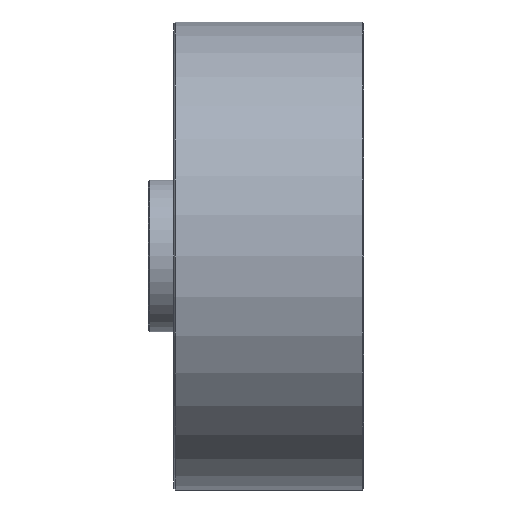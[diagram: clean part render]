
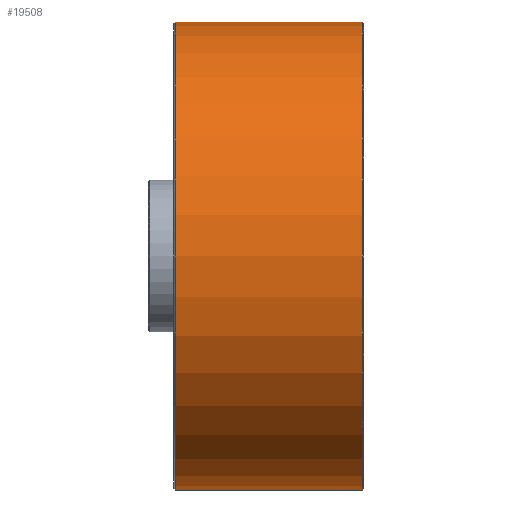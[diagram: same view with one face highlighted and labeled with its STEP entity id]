
A CAD part, left-side view. The second image highlights one B-rep face of the part: STEP entity #19508.
In plain terms, the highlighted cylindrical face has radius 37 mm (diameter 74 mm), a partial arc.
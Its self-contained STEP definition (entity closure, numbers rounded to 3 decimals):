
#268 = EDGE_CURVE ( 'NONE', #11772, #1965, #861, .T. ) ;
#340 = AXIS2_PLACEMENT_3D ( 'NONE', #8231, #17479, #8127 ) ;
#861 = CIRCLE ( 'NONE', #3730, 37. ) ;
#1026 = EDGE_CURVE ( 'NONE', #11772, #3266, #10655, .T. ) ;
#1207 = CARTESIAN_POINT ( 'NONE',  ( 0., 1., 0. ) ) ;
#1965 = VERTEX_POINT ( 'NONE', #18856 ) ;
#3266 = VERTEX_POINT ( 'NONE', #4348 ) ;
#3730 = AXIS2_PLACEMENT_3D ( 'NONE', #19453, #13289, #17873 ) ;
#4044 = VECTOR ( 'NONE', #6293, 1000. ) ;
#4129 = ORIENTED_EDGE ( 'NONE', *, *, #16595, .T. ) ;
#4348 = CARTESIAN_POINT ( 'NONE',  ( 0., 0.2, 37. ) ) ;
#6293 = DIRECTION ( 'NONE',  ( 0., -1., 0. ) ) ;
#6551 = VECTOR ( 'NONE', #16997, 1000. ) ;
#7786 = CARTESIAN_POINT ( 'NONE',  ( 0., 1., 37. ) ) ;
#8032 = LINE ( 'NONE', #10537, #6551 ) ;
#8127 = DIRECTION ( 'NONE',  ( 0., 0., 1. ) ) ;
#8231 = CARTESIAN_POINT ( 'NONE',  ( 0., 0.2, 0. ) ) ;
#8856 = CARTESIAN_POINT ( 'NONE',  ( 0., 29.8, 37. ) ) ;
#10183 = VERTEX_POINT ( 'NONE', #19292 ) ;
#10252 = FACE_OUTER_BOUND ( 'NONE', #16922, .T. ) ;
#10537 = CARTESIAN_POINT ( 'NONE',  ( 0., 1., -37. ) ) ;
#10655 = LINE ( 'NONE', #7786, #4044 ) ;
#11772 = VERTEX_POINT ( 'NONE', #8856 ) ;
#12502 = ORIENTED_EDGE ( 'NONE', *, *, #268, .T. ) ;
#13043 = DIRECTION ( 'NONE',  ( 0., 0., -1. ) ) ;
#13142 = CYLINDRICAL_SURFACE ( 'NONE', #13400, 37. ) ;
#13289 = DIRECTION ( 'NONE',  ( 0., -1., 0. ) ) ;
#13400 = AXIS2_PLACEMENT_3D ( 'NONE', #1207, #19206, #13043 ) ;
#14812 = EDGE_CURVE ( 'NONE', #1965, #10183, #8032, .T. ) ;
#16560 = CIRCLE ( 'NONE', #340, 37. ) ;
#16595 = EDGE_CURVE ( 'NONE', #10183, #3266, #16560, .T. ) ;
#16922 = EDGE_LOOP ( 'NONE', ( #19503, #12502, #17093, #4129 ) ) ;
#16997 = DIRECTION ( 'NONE',  ( 0., -1., 0. ) ) ;
#17093 = ORIENTED_EDGE ( 'NONE', *, *, #14812, .T. ) ;
#17479 = DIRECTION ( 'NONE',  ( 0., 1., 0. ) ) ;
#17873 = DIRECTION ( 'NONE',  ( 0., 0., 1. ) ) ;
#18856 = CARTESIAN_POINT ( 'NONE',  ( 0., 29.8, -37. ) ) ;
#19206 = DIRECTION ( 'NONE',  ( 0., -1., 0. ) ) ;
#19292 = CARTESIAN_POINT ( 'NONE',  ( 0., 0.2, -37. ) ) ;
#19453 = CARTESIAN_POINT ( 'NONE',  ( 0., 29.8, 0. ) ) ;
#19503 = ORIENTED_EDGE ( 'NONE', *, *, #1026, .F. ) ;
#19508 = ADVANCED_FACE ( 'NONE', ( #10252 ), #13142, .T. ) ;
